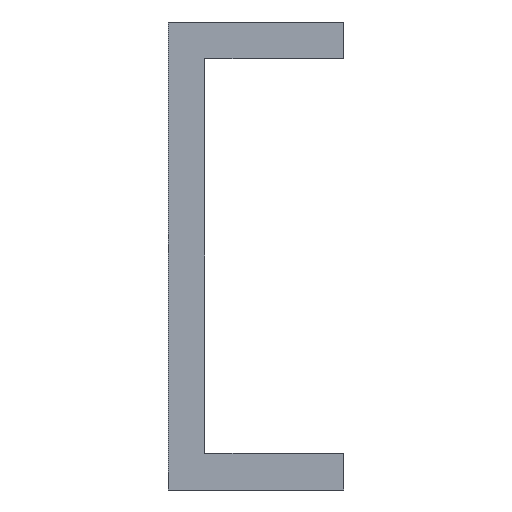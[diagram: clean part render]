
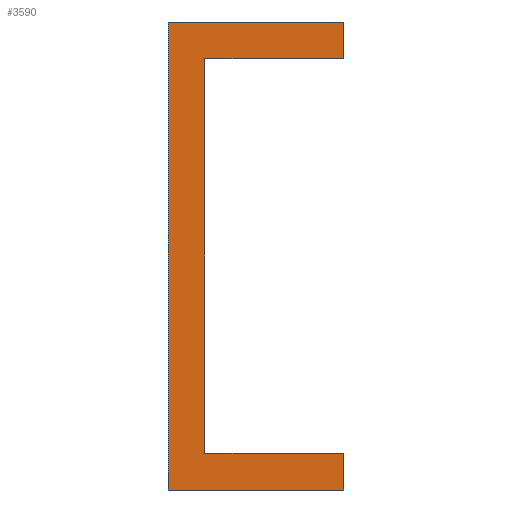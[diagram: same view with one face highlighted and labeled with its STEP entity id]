
A CAD part, front view. The second image highlights one B-rep face of the part: STEP entity #3590.
In plain terms, the highlighted planar face has unit normal (0, -1, 0).
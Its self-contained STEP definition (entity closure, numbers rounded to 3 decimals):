
#58 = EDGE_CURVE ( 'NONE', #20065, #22463, #1148, .T. ) ;
#439 = CARTESIAN_POINT ( 'NONE',  ( 10.75, 0., 0. ) ) ;
#1148 = LINE ( 'NONE', #13129, #21309 ) ;
#1344 = VERTEX_POINT ( 'NONE', #20187 ) ;
#1538 = DIRECTION ( 'NONE',  ( -1., 0., 0. ) ) ;
#2175 = LINE ( 'NONE', #2820, #12004 ) ;
#2228 = ORIENTED_EDGE ( 'NONE', *, *, #15848, .F. ) ;
#2309 = DIRECTION ( 'NONE',  ( 0., 0., -1. ) ) ;
#2634 = CARTESIAN_POINT ( 'NONE',  ( 0., 0., -13.5 ) ) ;
#2820 = CARTESIAN_POINT ( 'NONE',  ( 0., 0., 13.5 ) ) ;
#2878 = CARTESIAN_POINT ( 'NONE',  ( 0., 0., 16. ) ) ;
#3060 = DIRECTION ( 'NONE',  ( -1., 0., 0. ) ) ;
#3242 = EDGE_CURVE ( 'NONE', #1344, #23102, #8755, .T. ) ;
#3590 = ADVANCED_FACE ( 'NONE', ( #20553 ), #19051, .F. ) ;
#3630 = LINE ( 'NONE', #4163, #22302 ) ;
#4163 = CARTESIAN_POINT ( 'NONE',  ( 10.75, 0., 0. ) ) ;
#4905 = EDGE_CURVE ( 'NONE', #24505, #20065, #14261, .T. ) ;
#5078 = CARTESIAN_POINT ( 'NONE',  ( 10.75, 0., 16. ) ) ;
#5885 = VERTEX_POINT ( 'NONE', #6296 ) ;
#6209 = CARTESIAN_POINT ( 'NONE',  ( 1.25, 0., 0. ) ) ;
#6296 = CARTESIAN_POINT ( 'NONE',  ( 10.75, 0., 13.5 ) ) ;
#7838 = CARTESIAN_POINT ( 'NONE',  ( -1.25, 0., 16. ) ) ;
#8755 = LINE ( 'NONE', #6209, #18220 ) ;
#9279 = LINE ( 'NONE', #2878, #23510 ) ;
#9343 = EDGE_CURVE ( 'NONE', #22463, #20822, #9279, .T. ) ;
#9452 = DIRECTION ( 'NONE',  ( 0., 0., 1. ) ) ;
#9899 = DIRECTION ( 'NONE',  ( 0., 0., 1. ) ) ;
#10594 = EDGE_LOOP ( 'NONE', ( #12271, #21263, #22738, #12276, #20039, #23738, #20098, #2228 ) ) ;
#11064 = DIRECTION ( 'NONE',  ( 0., 0., 1. ) ) ;
#11459 = EDGE_CURVE ( 'NONE', #5885, #20822, #3630, .T. ) ;
#11926 = AXIS2_PLACEMENT_3D ( 'NONE', #20695, #20863, #9452 ) ;
#12004 = VECTOR ( 'NONE', #21952, 1000. ) ;
#12271 = ORIENTED_EDGE ( 'NONE', *, *, #21476, .T. ) ;
#12276 = ORIENTED_EDGE ( 'NONE', *, *, #11459, .T. ) ;
#12730 = LINE ( 'NONE', #2634, #21565 ) ;
#13129 = CARTESIAN_POINT ( 'NONE',  ( -1.25, 0., 0. ) ) ;
#14261 = LINE ( 'NONE', #16813, #14850 ) ;
#14850 = VECTOR ( 'NONE', #1538, 1000. ) ;
#15537 = VECTOR ( 'NONE', #2309, 1000. ) ;
#15848 = EDGE_CURVE ( 'NONE', #20351, #24505, #19392, .T. ) ;
#15956 = EDGE_CURVE ( 'NONE', #5885, #23102, #2175, .T. ) ;
#16682 = CARTESIAN_POINT ( 'NONE',  ( 10.75, 0., -16. ) ) ;
#16813 = CARTESIAN_POINT ( 'NONE',  ( 0., 0., -16. ) ) ;
#17661 = CARTESIAN_POINT ( 'NONE',  ( -1.25, 0., -16. ) ) ;
#17879 = DIRECTION ( 'NONE',  ( 1., 0., 0. ) ) ;
#18220 = VECTOR ( 'NONE', #21215, 1000. ) ;
#18633 = CARTESIAN_POINT ( 'NONE',  ( 10.75, 0., -13.5 ) ) ;
#19051 = PLANE ( 'NONE',  #11926 ) ;
#19179 = CARTESIAN_POINT ( 'NONE',  ( 1.25, 0., 13.5 ) ) ;
#19392 = LINE ( 'NONE', #439, #15537 ) ;
#20039 = ORIENTED_EDGE ( 'NONE', *, *, #9343, .F. ) ;
#20065 = VERTEX_POINT ( 'NONE', #17661 ) ;
#20098 = ORIENTED_EDGE ( 'NONE', *, *, #4905, .F. ) ;
#20187 = CARTESIAN_POINT ( 'NONE',  ( 1.25, 0., -13.5 ) ) ;
#20351 = VERTEX_POINT ( 'NONE', #18633 ) ;
#20553 = FACE_OUTER_BOUND ( 'NONE', #10594, .T. ) ;
#20695 = CARTESIAN_POINT ( 'NONE',  ( 0., 0., 0. ) ) ;
#20822 = VERTEX_POINT ( 'NONE', #5078 ) ;
#20863 = DIRECTION ( 'NONE',  ( 0., 1., 0. ) ) ;
#21215 = DIRECTION ( 'NONE',  ( 0., 0., 1. ) ) ;
#21263 = ORIENTED_EDGE ( 'NONE', *, *, #3242, .T. ) ;
#21309 = VECTOR ( 'NONE', #11064, 1000. ) ;
#21476 = EDGE_CURVE ( 'NONE', #20351, #1344, #12730, .T. ) ;
#21565 = VECTOR ( 'NONE', #3060, 1000. ) ;
#21952 = DIRECTION ( 'NONE',  ( -1., 0., 0. ) ) ;
#22302 = VECTOR ( 'NONE', #9899, 1000. ) ;
#22463 = VERTEX_POINT ( 'NONE', #7838 ) ;
#22738 = ORIENTED_EDGE ( 'NONE', *, *, #15956, .F. ) ;
#23102 = VERTEX_POINT ( 'NONE', #19179 ) ;
#23510 = VECTOR ( 'NONE', #17879, 1000. ) ;
#23738 = ORIENTED_EDGE ( 'NONE', *, *, #58, .F. ) ;
#24505 = VERTEX_POINT ( 'NONE', #16682 ) ;
